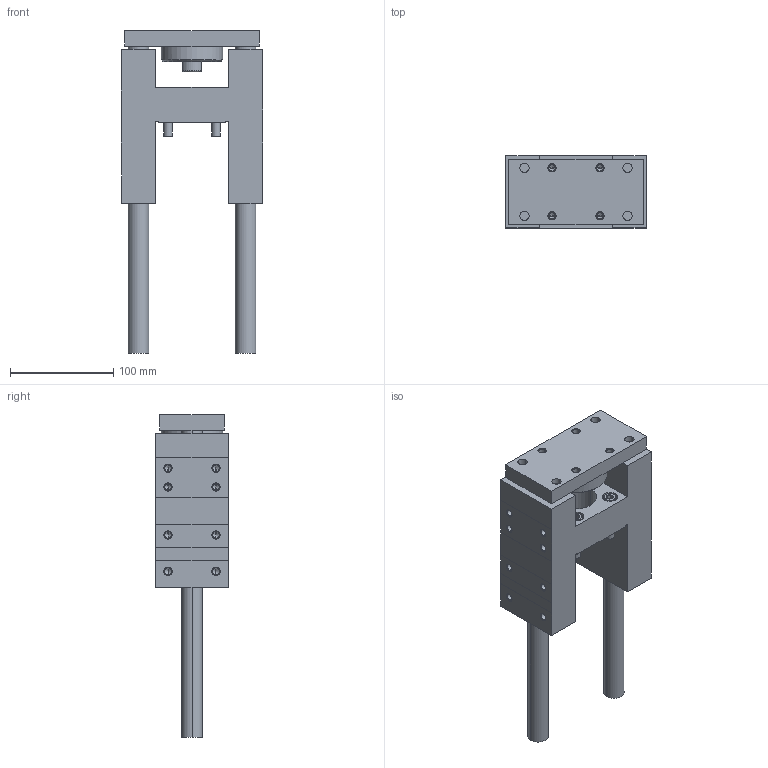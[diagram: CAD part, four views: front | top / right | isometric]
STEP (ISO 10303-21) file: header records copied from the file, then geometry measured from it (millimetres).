
FILE_DESCRIPTION (( 'STEP AP203' ), '1' );
FILE_NAME ('GB50-125.STEP', '2020-04-24T13:13:27', ( '' ), ( '' ), 'SwSTEP 2.0', 'SolidWorks 2019', '' );
FILE_SCHEMA (( 'CONFIG_CONTROL_DESIGN' ));
Length unit declared in the file: millimetre
Products named in the file (1): GB50-125
Bounding box: 137 x 70 x 313 mm (x, y, z)
Volume: 1055499.1 mm3; surface area: 184192.5 mm2
Topology: 6 solids, 6 shells, 377 faces, 852 edges, 480 vertices
Faces by surface type: cone 154, plane 117, cylinder 106
Entity records: 10863 total; most frequent: CARTESIAN_POINT 2350, DIRECTION 1902, ORIENTED_EDGE 1624, EDGE_CURVE 812, AXIS2_PLACEMENT_3D 744, VERTEX_POINT 480, EDGE_LOOP 440, LINE 414
